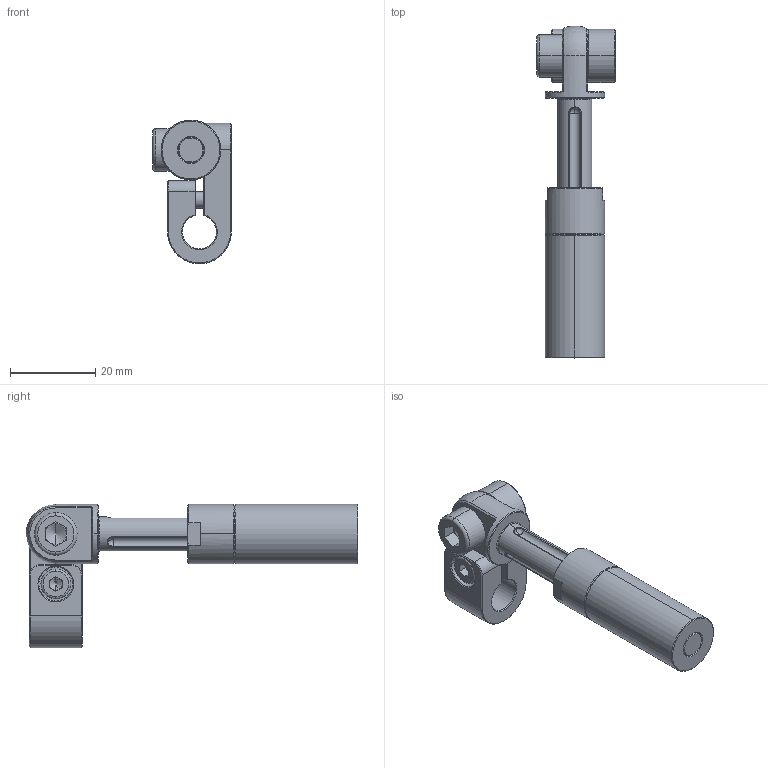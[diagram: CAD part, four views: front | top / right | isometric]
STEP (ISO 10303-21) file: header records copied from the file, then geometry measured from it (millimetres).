
FILE_DESCRIPTION (( 'STEP AP214' ), '1' );
FILE_NAME ('GSR1421-08.STEP', '2019-11-12T07:32:21', ( '微软用户' ), ( '微软中国' ), 'SwSTEP 2.0', 'SolidWorks 2016', '' );
FILE_SCHEMA (( 'AUTOMOTIVE_DESIGN' ));
Length unit declared in the file: millimetre
Products named in the file (1): GSR1421-08
Bounding box: 18.5 x 78 x 33.75 mm (x, y, z)
Volume: 11552.6 mm3; surface area: 9604.3 mm2
Topology: 6 solids, 6 shells, 277 faces, 623 edges, 362 vertices
Faces by surface type: cone 95, cylinder 77, plane 75, sphere 14, bspline 10, torus 6
Entity records: 13450 total; most frequent: CARTESIAN_POINT 4143, DIRECTION 1354, ORIENTED_EDGE 1230, EDGE_CURVE 615, AXIS2_PLACEMENT_3D 535, VERTEX_POINT 360, EDGE_LOOP 305, UNCERTAINTY_MEASURE_WITH_UNIT 285
